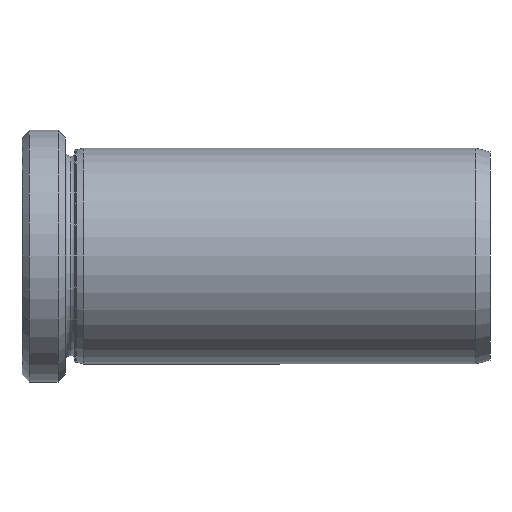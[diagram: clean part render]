
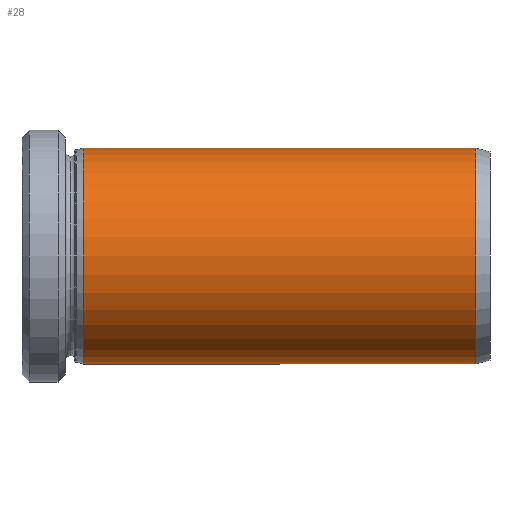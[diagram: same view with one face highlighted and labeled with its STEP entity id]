
A CAD part, front view. The second image highlights one B-rep face of the part: STEP entity #28.
In plain terms, the highlighted cylindrical face has radius 15 mm (diameter 30 mm), a partial arc.
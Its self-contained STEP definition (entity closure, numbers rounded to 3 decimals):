
#28 = ADVANCED_FACE ( 'NONE', ( #530 ), #685, .T. ) ;
#47 = DIRECTION ( 'NONE',  ( -1., 0., 0. ) ) ;
#72 = ORIENTED_EDGE ( 'NONE', *, *, #518, .F. ) ;
#141 = ORIENTED_EDGE ( 'NONE', *, *, #612, .T. ) ;
#171 = CARTESIAN_POINT ( 'NONE',  ( 0., 0., 15. ) ) ;
#180 = VERTEX_POINT ( 'NONE', #278 ) ;
#202 = CARTESIAN_POINT ( 'NONE',  ( 0., 0., -15. ) ) ;
#227 = VECTOR ( 'NONE', #744, 1000. ) ;
#230 = CARTESIAN_POINT ( 'NONE',  ( 0., 0., 0. ) ) ;
#241 = CARTESIAN_POINT ( 'NONE',  ( 29.41, 0., 15. ) ) ;
#254 = AXIS2_PLACEMENT_3D ( 'NONE', #230, #47, #437 ) ;
#257 = CARTESIAN_POINT ( 'NONE',  ( 83.91, 0., 0. ) ) ;
#271 = CARTESIAN_POINT ( 'NONE',  ( 29.41, 0., -15. ) ) ;
#278 = CARTESIAN_POINT ( 'NONE',  ( 83.91, 0., -15. ) ) ;
#301 = DIRECTION ( 'NONE',  ( -1., 0., 0. ) ) ;
#305 = DIRECTION ( 'NONE',  ( -1., 0., 0. ) ) ;
#333 = DIRECTION ( 'NONE',  ( -1., 0., 0. ) ) ;
#347 = ORIENTED_EDGE ( 'NONE', *, *, #716, .F. ) ;
#362 = CIRCLE ( 'NONE', #622, 15. ) ;
#411 = CIRCLE ( 'NONE', #460, 15. ) ;
#427 = VERTEX_POINT ( 'NONE', #271 ) ;
#437 = DIRECTION ( 'NONE',  ( 0., 0., 1. ) ) ;
#460 = AXIS2_PLACEMENT_3D ( 'NONE', #613, #333, #751 ) ;
#492 = CARTESIAN_POINT ( 'NONE',  ( 83.91, 0., 15. ) ) ;
#501 = VECTOR ( 'NONE', #301, 1000. ) ;
#518 = EDGE_CURVE ( 'NONE', #180, #427, #779, .T. ) ;
#526 = VERTEX_POINT ( 'NONE', #492 ) ;
#530 = FACE_OUTER_BOUND ( 'NONE', #559, .T. ) ;
#558 = EDGE_CURVE ( 'NONE', #180, #526, #362, .T. ) ;
#559 = EDGE_LOOP ( 'NONE', ( #72, #712, #141, #347 ) ) ;
#612 = EDGE_CURVE ( 'NONE', #526, #617, #667, .T. ) ;
#613 = CARTESIAN_POINT ( 'NONE',  ( 29.41, 0., 0. ) ) ;
#617 = VERTEX_POINT ( 'NONE', #241 ) ;
#622 = AXIS2_PLACEMENT_3D ( 'NONE', #257, #305, #803 ) ;
#667 = LINE ( 'NONE', #171, #501 ) ;
#685 = CYLINDRICAL_SURFACE ( 'NONE', #254, 15. ) ;
#712 = ORIENTED_EDGE ( 'NONE', *, *, #558, .T. ) ;
#716 = EDGE_CURVE ( 'NONE', #427, #617, #411, .T. ) ;
#744 = DIRECTION ( 'NONE',  ( -1., 0., 0. ) ) ;
#751 = DIRECTION ( 'NONE',  ( 0., 0., 1. ) ) ;
#779 = LINE ( 'NONE', #202, #227 ) ;
#803 = DIRECTION ( 'NONE',  ( 0., 0., 1. ) ) ;
